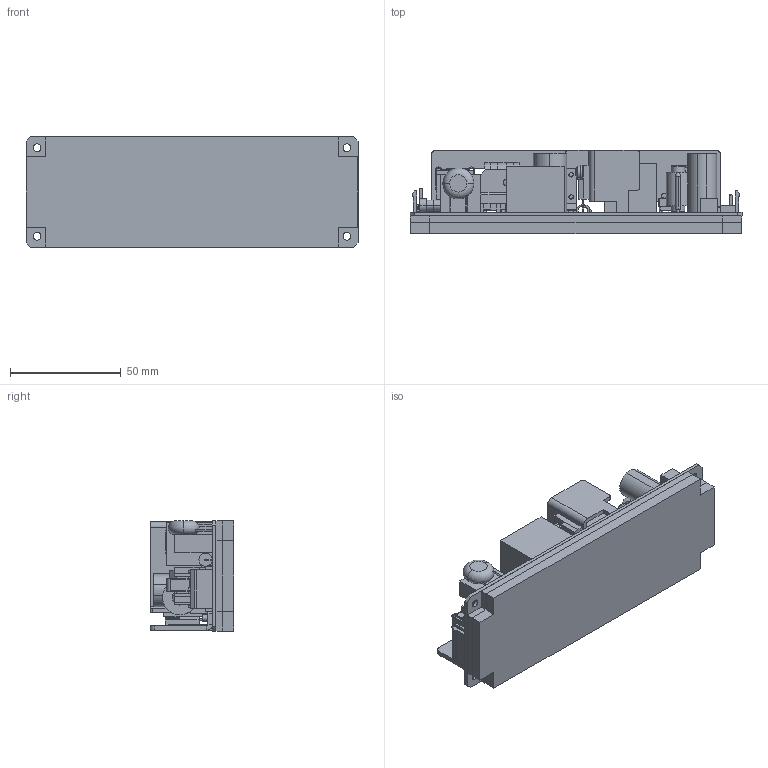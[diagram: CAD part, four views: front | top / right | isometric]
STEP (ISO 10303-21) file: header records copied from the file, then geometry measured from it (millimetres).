
FILE_DESCRIPTION (( 'STEP AP214' ), '1' );
FILE_NAME ('zws75baf_outline.STEP', '2011-05-09T00:50:34', ( 'N08-D050' ), ( 'TDK-Lambda' ), 'SwSTEP 2.0', 'SolidWorks 2010', '' );
FILE_SCHEMA (( 'AUTOMOTIVE_DESIGN' ));
Length unit declared in the file: millimetre
Products named in the file (1): zws75baf_outline
Bounding box: 150 x 37.6 x 50 mm (x, y, z)
Volume: 132531.3 mm3; surface area: 62747.5 mm2
Topology: 2 solids, 2 shells, 1153 faces, 3055 edges, 1955 vertices
Faces by surface type: plane 836, cylinder 244, cone 51, torus 18, sphere 4
Entity records: 48348 total; most frequent: CARTESIAN_POINT 6460, ORIENTED_EDGE 6098, DIRECTION 5985, EDGE_CURVE 3049, VECTOR 2281, LINE 2281, VERTEX_POINT 1955, AXIS2_PLACEMENT_3D 1852
